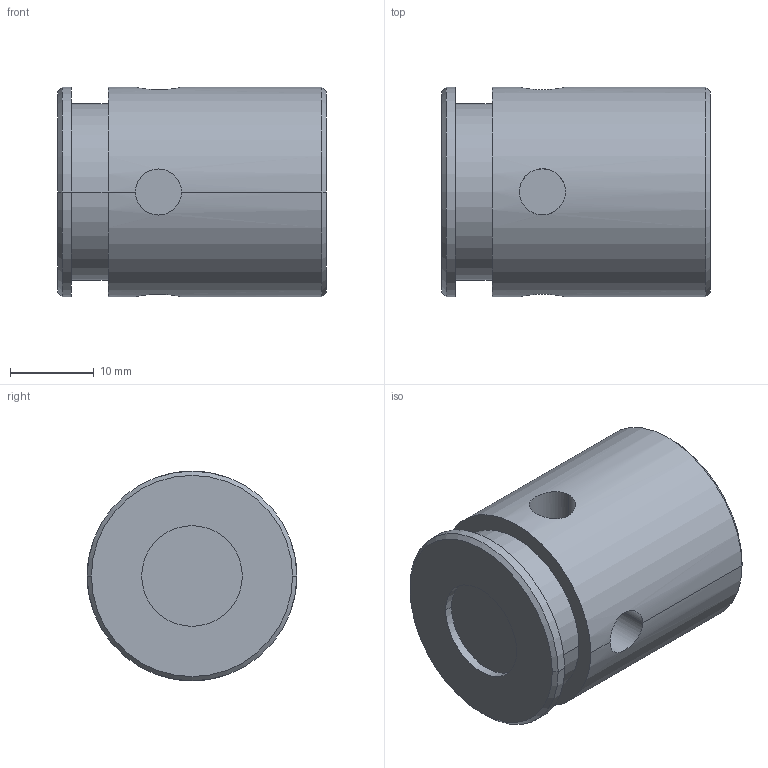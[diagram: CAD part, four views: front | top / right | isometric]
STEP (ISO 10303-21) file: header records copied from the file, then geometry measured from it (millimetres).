
FILE_DESCRIPTION((''),'2;1');
FILE_NAME('VJS3_10_005_03_000_226686','2022-10-13T',('l.soukupova'),(''),'PRO/ENGINEER BY PARAMETRIC TECHNOLOGY CORPORATION, 2015440','PRO/ENGINEER BY PARAMETRIC TECHNOLOGY CORPORATION, 2015440','');
FILE_SCHEMA(('AUTOMOTIVE_DESIGN { 1 0 10303 214 1 1 1 1 }'));
Length unit declared in the file: millimetre
Products named in the file (1): VJS3_10_005_03_000_226686
Bounding box: 32 x 25 x 25 mm (x, y, z)
Volume: 14017.7 mm3; surface area: 4161 mm2
Topology: 1 solids, 1 shells, 32 faces, 69 edges, 50 vertices
Faces by surface type: cylinder 18, plane 10, cone 4
Entity records: 1413 total; most frequent: CARTESIAN_POINT 408, DIRECTION 159, ORIENTED_EDGE 128, PRESENTATION_STYLE_ASSIGNMENT 71, STYLED_ITEM 71, CURVE_STYLE 70, AXIS2_PLACEMENT_3D 65, EDGE_CURVE 64
